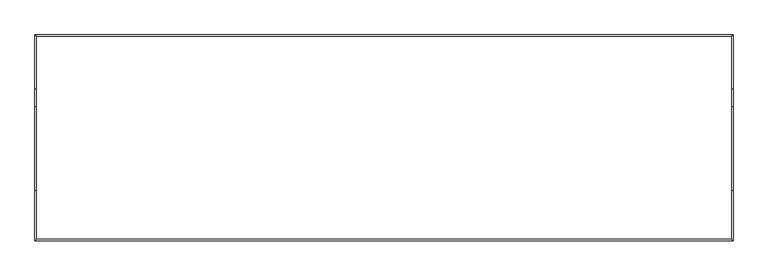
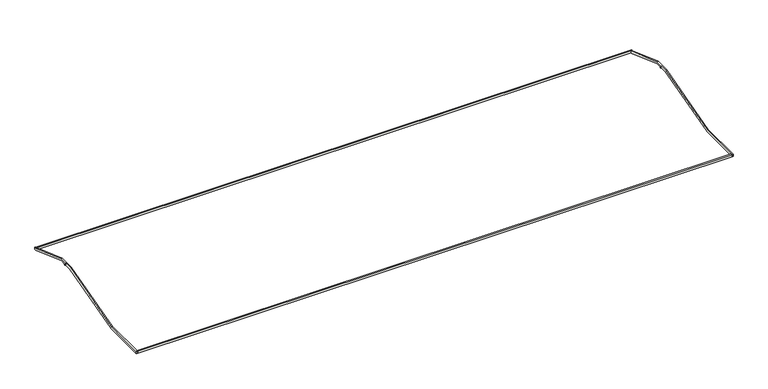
"""IFC4 building model written with IfcOpenShell, lengths in millimetres: slab geometry, 笠コンクリート : 笠コンクリート."""

import ifcopenshell
import ifcopenshell.guid

model = None  # the IFC model being written
_history = None  # IfcOwnerHistory: only IFC2X3 demands one
_inside = {}  # id of a spatial element -> (the spatial element, [elements in it])
_under = {}  # id of a project, library or spatial element -> (it, [spatial elements below it])
_declared = {}  # id of a project -> (the project, [libraries it declares])
_typed = {}  # id of a type object -> (the type object, [elements of that type])
_made_of = {}  # id of a material, layer set ... -> (it, [elements and type objects made of it])


def new_model(schema):
    """Start an empty IFC model of exactly this schema.

    Asked for "IFC4X3", IfcOpenShell would pick the latest addendum, in which some entities
    have other attributes; the version numbers below select the first issue.
    IFC2X3 requires an IfcOwnerHistory on every rooted entity: one is made here for all.
    """
    global model, _history
    if schema == "IFC4X3":
        model = ifcopenshell.file(schema_version=(4, 3, 0, 0))
    else:
        model = ifcopenshell.file(schema=schema)
    _inside.clear()
    _under.clear()
    _declared.clear()
    _typed.clear()
    _made_of.clear()
    _history = None
    if model.schema == "IFC2X3":
        org = make("IfcOrganization", Name="unknown")
        user = make(
            "IfcPersonAndOrganization",
            ThePerson=make("IfcPerson", FamilyName="unknown"),
            TheOrganization=org,
        )
        app = make(
            "IfcApplication",
            ApplicationDeveloper=org,
            Version="unknown",
            ApplicationFullName="unknown",
            ApplicationIdentifier="unknown",
        )
        _history = make(
            "IfcOwnerHistory",
            OwningUser=user,
            OwningApplication=app,
            ChangeAction="ADDED",
            CreationDate=0,
        )
    return model


def make(cls, **values):
    """One entity of the class cls with the attributes given. An attribute that is None is left unset."""
    return model.create_entity(
        cls, **{name: value for name, value in values.items() if value is not None}
    )


def rooted(cls, **values):
    """An entity with a GlobalId (a new one), such as an element, a storey or a relation."""
    return make(cls, GlobalId=ifcopenshell.guid.new(), OwnerHistory=_history, **values)


def si_unit(unit_type, name, prefix=None):
    """IfcSIUnit, for example si_unit("LENGTHUNIT", "METRE", prefix="MILLI")."""
    return make("IfcSIUnit", UnitType=unit_type, Prefix=prefix, Name=name)


def assignment(units):
    """IfcUnitAssignment: the units of a project."""
    return None if units is None else make("IfcUnitAssignment", Units=units)


def point(xyz):
    """IfcCartesianPoint."""
    return None if xyz is None else make("IfcCartesianPoint", Coordinates=xyz)


def direction(xyz):
    """IfcDirection."""
    return None if xyz is None else make("IfcDirection", DirectionRatios=xyz)


def frame(location, z_axis=None, x_axis=None):
    """IfcAxis2Placement3D, a coordinate frame: its origin and axes. An axis left out is left unset."""
    return make(
        "IfcAxis2Placement3D",
        Location=point(location),
        Axis=direction(z_axis),
        RefDirection=direction(x_axis),
    )


def frame_2d(location, x_axis=None):
    """IfcAxis2Placement2D, a coordinate frame in the plane: its origin and x axis."""
    return make(
        "IfcAxis2Placement2D", Location=point(location), RefDirection=direction(x_axis)
    )


def origin():
    """The frame at (0, 0, 0) with its axes left unset."""
    return frame((0.0, 0.0, 0.0))


def place(relative_to, where):
    """IfcLocalPlacement: puts the frame where relative to a parent placement (None: the world)."""
    return make(
        "IfcLocalPlacement", PlacementRelTo=relative_to, RelativePlacement=where
    )


def context(
    kind, dimensions, precision=None, world=None, true_north=None, identifier=None
):
    """IfcGeometricRepresentationContext, for example the 3D "Model" context."""
    return make(
        "IfcGeometricRepresentationContext",
        ContextIdentifier=identifier,
        ContextType=kind,
        CoordinateSpaceDimension=dimensions,
        Precision=precision,
        WorldCoordinateSystem=world,
        TrueNorth=true_north,
    )


def project(units=None, contexts=None):
    """IfcProject with its units and contexts."""
    return rooted(
        "IfcProject",
        Name="project",
        RepresentationContexts=contexts,
        UnitsInContext=assignment(units),
    )


def spatial(cls, under=None, at=None, **own):
    """A site, building, storey or space (cls), placed at a placement, below another one or the project."""
    s = rooted(cls, ObjectPlacement=at, **own)
    if under is not None:
        _under.setdefault(under.id(), (under, []))[1].append(s)
    return s


def polyline(points):
    """IfcPolyline through the points."""
    return make("IfcPolyline", Points=[point(p) for p in points])


def circle_curve(where, radius):
    """IfcCircle in the frame where."""
    return make("IfcCircle", Position=where, Radius=radius)


def trimmed(basis, trim1, trim2, sense, master):
    """IfcTrimmedCurve: the piece of a basis curve between two trims."""
    return make(
        "IfcTrimmedCurve",
        BasisCurve=basis,
        Trim1=trim1,
        Trim2=trim2,
        SenseAgreement=sense,
        MasterRepresentation=master,
    )


def segment(curve, same_sense, transition):
    """IfcCompositeCurveSegment."""
    return make(
        "IfcCompositeCurveSegment",
        Transition=transition,
        SameSense=same_sense,
        ParentCurve=curve,
    )


def composite_curve(segments, self_intersect=None):
    """IfcCompositeCurve: segments joined end to end."""
    return make("IfcCompositeCurve", Segments=segments, SelfIntersect=self_intersect)


def outline(outer, holes=None, kind="AREA"):
    """IfcArbitraryClosedProfileDef: a profile drawn as a closed curve; with holes, ...WithVoids."""
    if holes is None:
        return make("IfcArbitraryClosedProfileDef", ProfileType=kind, OuterCurve=outer)
    return make(
        "IfcArbitraryProfileDefWithVoids",
        ProfileType=kind,
        OuterCurve=outer,
        InnerCurves=holes,
    )


def extrude(swept, where, along, depth):
    """IfcExtrudedAreaSolid: the profile swept, set in the frame where, extruded along a direction by depth."""
    return make(
        "IfcExtrudedAreaSolid",
        SweptArea=swept,
        Position=where,
        ExtrudedDirection=direction(along),
        Depth=depth,
    )


def shape(context_of_items, identifier, shape_type, items):
    """IfcShapeRepresentation: the items that make up one representation, for example the "Body"."""
    return make(
        "IfcShapeRepresentation",
        ContextOfItems=context_of_items,
        RepresentationIdentifier=identifier,
        RepresentationType=shape_type,
        Items=items,
    )


def source(mapping_origin, context_of_items, identifier, shape_type, items):
    """IfcRepresentationMap: a shape defined once, which mapped items show again and again."""
    return make(
        "IfcRepresentationMap",
        MappingOrigin=mapping_origin,
        MappedRepresentation=shape(context_of_items, identifier, shape_type, items),
    )


def transform(
    local_origin,
    x_axis=None,
    y_axis=None,
    z_axis=None,
    scale=None,
    scale2=None,
    scale3=None,
    uniform=True,
):
    """IfcCartesianTransformationOperator3D, or its non-uniform kind. x_axis, y_axis, z_axis: its Axis1, 2, 3."""
    if uniform:
        return make(
            "IfcCartesianTransformationOperator3D",
            Axis1=direction(x_axis),
            Axis2=direction(y_axis),
            LocalOrigin=point(local_origin),
            Scale=scale,
            Axis3=direction(z_axis),
        )
    return make(
        "IfcCartesianTransformationOperator3DnonUniform",
        Axis1=direction(x_axis),
        Axis2=direction(y_axis),
        LocalOrigin=point(local_origin),
        Scale=scale,
        Axis3=direction(z_axis),
        Scale2=scale2,
        Scale3=scale3,
    )


def mapped(mapping_source, mapping_target):
    """IfcMappedItem: shows the shape of a source again, moved by a transform."""
    return make(
        "IfcMappedItem", MappingSource=mapping_source, MappingTarget=mapping_target
    )


def made_of(thing, what):
    """Note that an element or type object is made of a material, layer set ...; save() writes the relation."""
    if what is not None:
        _made_of.setdefault(what.id(), (what, []))[1].append(thing)
    return thing


def element(
    cls,
    number,
    at=None,
    inside=None,
    cuts=None,
    type_object=None,
    material=None,
    context=None,
    identifier="Body",
    shape_type=None,
    held_by="IfcProductDefinitionShape",
    body=None,
    shapes=None,
    **own,
):
    """One element of the class cls, such as IfcWall. Its Tag is "e" and its number.

    at: its placement. inside: the storey or other place that contains it. cuts: it is an
    opening in that element (IfcRelVoidsElement). A single representation is given by context,
    identifier, shape_type and body (its items); several are given by shapes. held_by: the class
    of the entity that holds the representations. save() writes the other relations.
    """
    e = rooted(cls, Tag="e%d" % number, ObjectPlacement=at, **own)
    if body is not None:
        shapes = [shape(context, identifier, shape_type, body)]
    if shapes is not None:
        e.Representation = make(held_by, Representations=shapes)
    if inside is not None:
        _inside.setdefault(inside.id(), (inside, []))[1].append(e)
    if cuts is not None:
        rooted(
            "IfcRelVoidsElement", RelatingBuildingElement=cuts, RelatedOpeningElement=e
        )
    if type_object is not None:
        _typed.setdefault(type_object.id(), (type_object, []))[1].append(e)
    return made_of(e, material)


def aggregate(whole, parts):
    """IfcRelAggregates: a whole, such as a stair, and the parts it consists of."""
    return rooted("IfcRelAggregates", RelatingObject=whole, RelatedObjects=parts)


def save(model, path):
    """Write the relations noted so far, then the file.

    IfcRelAggregates (storeys below a building ...), IfcRelContainedInSpatialStructure (elements
    in a storey), IfcRelDefinesByType, IfcRelAssociatesMaterial and IfcRelDeclares: one each for
    every whole, place, type object, material and project.
    """
    for whole, parts in _under.values():
        aggregate(whole, parts)
    for where, things in _inside.values():
        rooted(
            "IfcRelContainedInSpatialStructure",
            RelatedElements=things,
            RelatingStructure=where,
        )
    for kind, things in _typed.values():
        rooted("IfcRelDefinesByType", RelatedObjects=things, RelatingType=kind)
    for what, things in _made_of.values():
        rooted("IfcRelAssociatesMaterial", RelatedObjects=things, RelatingMaterial=what)
    for by, libraries in _declared.values():
        rooted("IfcRelDeclares", RelatingContext=by, RelatedDefinitions=libraries)
    model.write(path)


def slab_dfe32eb2(model_context):
    return source(origin(), model_context, "Body", "SweptSolid", [
        extrude(outline(polyline([(148250.0, -52250.0), (148250.0, -52750.0), (-127958.0, -52750.0), (-127958.0, -52250.0), (148250.0, -52250.0)])), frame((0.0, 0.0, 5550.0), z_axis=(0.0, 0.0, 1.0), x_axis=(1.0, 0.0, 0.0)), (0.0, 0.0, 1.0), 950.0),
        extrude(outline(polyline([(148250.0, 28952.0), (148250.0, 28452.0), (-127958.0, 28452.0), (-127958.0, 28952.0), (148250.0, 28952.0)])), frame((0.0, 0.0, 7250.0), z_axis=(0.0, 0.0, 1.0), x_axis=(1.0, 0.0, 0.0)), (0.0, 0.0, 1.0), 950.0),
        extrude(outline(polyline([(-32750.0, 6500.0), (650.0, 15563.0), (7650.0, 15563.0), (28452.0, 8200.0), (28952.0, 8200.0), (28952.0, 7250.0), (28288.8306383, 7250.0), (7486.8306383, 14613.0), (5200.0, 14613.0), (4800.0, 14213.0), (4500.0, 14213.0), (4100.0, 14613.0), (776.6009691, 14613.0), (-32623.3990309, 5550.0), (-52750.0, 5550.0), (-52750.0, 6500.0), (-32750.0, 6500.0)]), holes=[composite_curve([segment(trimmed(circle_curve(frame_2d((4650.0, 14613.0)), 100.0), [point((4550.0, 14613.0))], [point((4750.0, 14613.0))], True, "CARTESIAN"), True, "CONTINUOUS"), segment(trimmed(circle_curve(frame_2d((4650.0, 14613.0)), 100.0), [point((4750.0, 14613.0))], [point((4550.0, 14613.0))], True, "CARTESIAN"), True, "CONTINUOUS")], self_intersect=False)]), frame((-128458.0, 0.0, 0.0), z_axis=(1.0, 0.0, 0.0), x_axis=(0.0, 1.0, 0.0)), (0.0, 0.0, 1.0), 500.0),
        extrude(outline(polyline([(-32750.0, 6500.0), (650.0, 15563.0), (7650.0, 15563.0), (28452.0, 8200.0), (28952.0, 8200.0), (28952.0, 7250.0), (28288.8306383, 7250.0), (7486.8306383, 14613.0), (5200.0, 14613.0), (4800.0, 14213.0), (4500.0, 14213.0), (4100.0, 14613.0), (776.6009691, 14613.0), (-32623.3990309, 5550.0), (-52750.0, 5550.0), (-52750.0, 6500.0), (-32750.0, 6500.0)]), holes=[composite_curve([segment(trimmed(circle_curve(frame_2d((4650.0, 14613.0)), 100.0), [point((4750.0, 14613.0))], [point((4550.0, 14613.0))], True, "CARTESIAN"), True, "CONTINUOUS"), segment(trimmed(circle_curve(frame_2d((4650.0, 14613.0)), 100.0), [point((4550.0, 14613.0))], [point((4750.0, 14613.0))], True, "CARTESIAN"), True, "CONTINUOUS")], self_intersect=False)]), frame((148250.0, 0.0, 0.0), z_axis=(1.0, 0.0, 0.0), x_axis=(0.0, 1.0, 0.0)), (0.0, 0.0, 1.0), 500.0),
    ])


if __name__ == "__main__":
    model = new_model("IFC4")
    model_context = context("Model", 3, world=origin())
    ifc_project = project(units=[si_unit("LENGTHUNIT", "METRE", prefix="MILLI")], contexts=[model_context])
    site = spatial("IfcSite", under=ifc_project)
    building = spatial("IfcBuilding", under=site)
    placement = place(None, origin())
    slab_shape = slab_dfe32eb2(model_context)
    element("IfcSlab", 1, ObjectType="笠コンクリート : 笠コンクリート", at=placement, inside=building, context=model_context, shape_type="MappedRepresentation", body=[
        mapped(slab_shape, transform((0.0, 0.0, 0.0), x_axis=(1.0, 0.0, 0.0), y_axis=(0.0, 1.0, 0.0), z_axis=(0.0, 0.0, 1.0))),
    ])
    save(model, "model.ifc")
